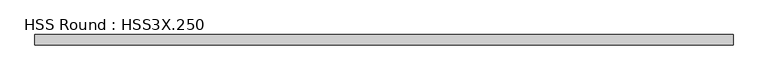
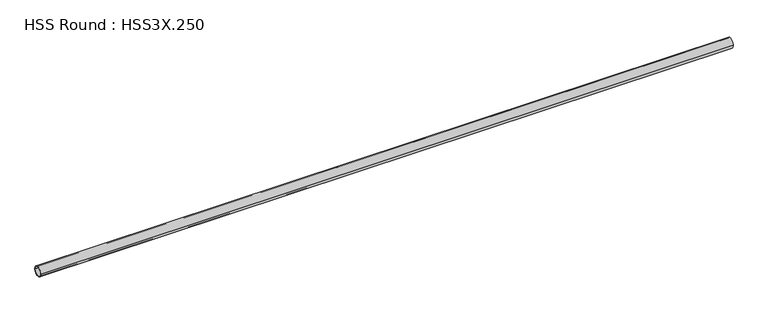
"""IFC4 building model written with IfcOpenShell, lengths in millimetres: member geometry, HSS Round : HSS3X.250."""

from ifc_helpers import new_model, si_unit, point, frame, origin, origin_2d, place, context, project, spatial, circle_curve, trimmed, segment, composite_curve, outline, extrude, source, transform, mapped, element, save


def hss_round_hss3x_250_217f3deb(model_context):
    return source(origin(), model_context, "Body", "SweptSolid", [
        extrude(outline(composite_curve([segment(trimmed(circle_curve(origin_2d(), 38.1), [point((-38.1, 0.0))], [point((38.1, 0.0))], False, "CARTESIAN"), True, "CONTINUOUS"), segment(trimmed(circle_curve(origin_2d(), 38.1), [point((38.1, 0.0))], [point((-38.1, 0.0))], False, "CARTESIAN"), True, "CONTINUOUS")], self_intersect=False), holes=[composite_curve([segment(trimmed(circle_curve(origin_2d(), 31.75), [point((31.75, 0.0))], [point((-31.75, 0.0))], True, "CARTESIAN"), True, "CONTINUOUS"), segment(trimmed(circle_curve(origin_2d(), 31.75), [point((-31.75, 0.0))], [point((31.75, 0.0))], True, "CARTESIAN"), True, "CONTINUOUS")], self_intersect=False)]), frame((-2627.6644471, 0.0, 0.0), z_axis=(1.0, 0.0, 0.0), x_axis=(0.0, 1.0, 0.0)), (0.0, 0.0, 1.0), 5215.0384003),
    ])


if __name__ == "__main__":
    model = new_model("IFC4")
    model_context = context("Model", 3, world=origin())
    ifc_project = project(units=[si_unit("LENGTHUNIT", "METRE", prefix="MILLI")], contexts=[model_context])
    site = spatial("IfcSite", under=ifc_project)
    building = spatial("IfcBuilding", under=site)
    placement = place(None, origin())
    hss_round_hss3x_250_shape = hss_round_hss3x_250_217f3deb(model_context)
    element("IfcMember", 1, ObjectType="HSS Round : HSS3X.250", at=placement, inside=building, context=model_context, shape_type="MappedRepresentation", body=[
        mapped(hss_round_hss3x_250_shape, transform((0.0, 0.0, 0.0), x_axis=(1.0, 0.0, 0.0), y_axis=(0.0, 1.0, 0.0), z_axis=(0.0, 0.0, 1.0))),
    ])
    save(model, "model.ifc")
